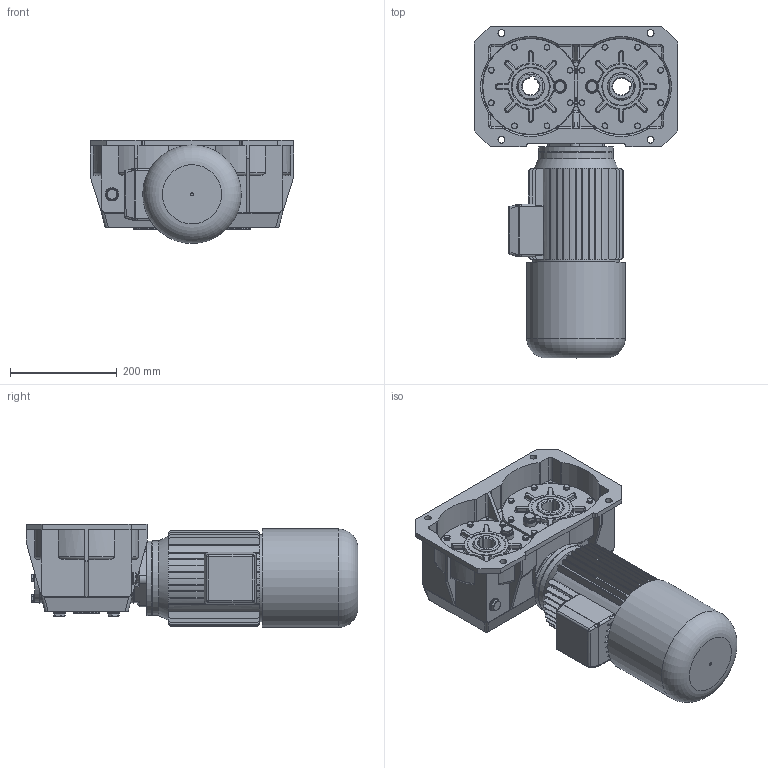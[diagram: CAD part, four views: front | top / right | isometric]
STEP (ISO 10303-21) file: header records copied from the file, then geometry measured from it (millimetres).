
FILE_DESCRIPTION((''),'2;1');
FILE_NAME('Y:\Archivi Inventor\Prog_07\int_170\figurini\MRV1702U per sito\MRV1702U_90l_B14_b.stp','2013-02-14T15:27:45',('tech3'),(''),'Autodesk Inventor 2013','Autodesk Inventor 2013','');
FILE_SCHEMA(('AUTOMOTIVE_DESIGN { 1 0 10303 214 1 1 1 1 }'));
Length unit declared in the file: millimetre
Products named in the file (18): fig_MRV170 2U 80 B5; fig_Carcassa MRV-2U 170; fig_0717002-A0; 0104029; fig_mozzo corona. MRV-RV40cusc_conici; 0104028; fig_0717009; PARAOLIO 50x70x10; PARAOLIO 35x47x8; Guarnizione 3_8 GAS; Tappo3_8 GAS; AS 1237 (2.1) 6; AS 1237 (2.1) 8; UNI 5739 M6 x 20; UNI 5739 M8 x 20; 0104006; UNI 5931 M 8 x  25; motori B14 brake 90L
Assembly tree (73 placements, depth 2):
  fig_MRV170 2U 80 B5
    fig_Carcassa MRV-2U 170
    fig_0717002-A0  x2
    0104029  x2
    fig_mozzo corona. MRV-RV40cusc_conici  x2
    0104028  x2
    fig_0717009
    PARAOLIO 50x70x10  x4
    PARAOLIO 35x47x8
    Guarnizione 3_8 GAS  x6
    Tappo3_8 GAS  x6
    AS 1237 (2.1) 6  x16
    AS 1237 (2.1) 8  x4
    UNI 5739 M6 x 20  x16
    UNI 5739 M8 x 20  x4
    0104006
    UNI 5931 M 8 x  25  x4
    motori B14 brake 90L
Bounding box: 382 x 622.9 x 193.5 mm (x, y, z)
Volume: 12056313.1 mm3; surface area: 1401877.4 mm2
Topology: 74 solids, 76 shells, 1989 faces, 4602 edges, 2837 vertices
Faces by surface type: plane 969, cylinder 576, cone 203, bspline 109, torus 108, sphere 24
Full cylindrical faces by diameter (mm): 4.917 x16, 5 x1, 6 x16, 6.4 x16, 6.5 x32, 6.647 x12, 8 x8, 8.4 x4, 8.5 x16, 8.88 x16, 9 x4, 11 x16, 11.63 x4, 13 x8, 13.046 x6, 14 x4, 14.95 x6, 16.3 x6, 22 x12, 24 x1, 25 x4, 39.605 x1, 43.5 x1, 47 x2, 50 x2, 56.381 x4, 62 x6, 65 x4, 70 x8, 89.5 x2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
Entity records: 40943 total; most frequent: CARTESIAN_POINT 11555, DIRECTION 6164, ORIENTED_EDGE 5586, EDGE_CURVE 2793, AXIS2_PLACEMENT_3D 2368, VERTEX_POINT 1815, EDGE_LOOP 1550, VECTOR 1428
